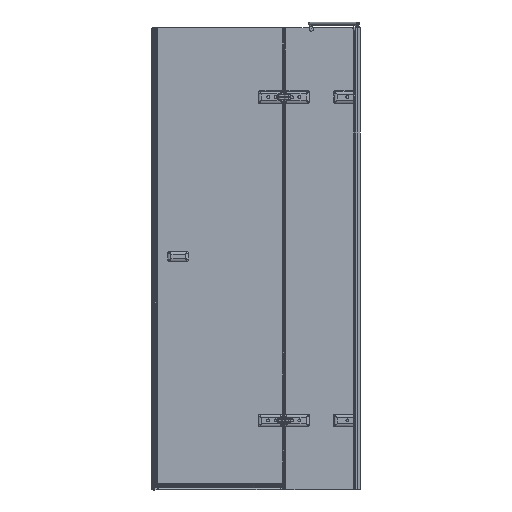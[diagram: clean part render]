
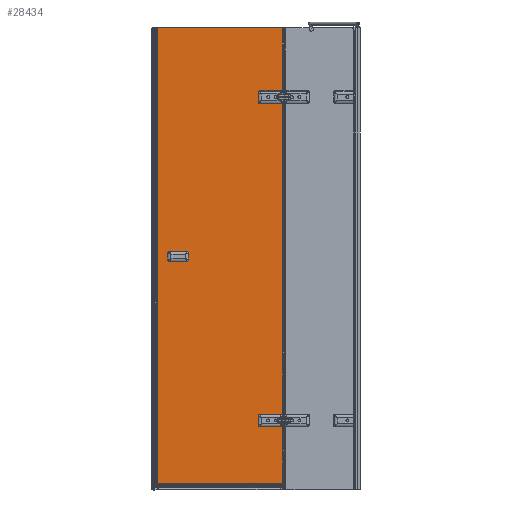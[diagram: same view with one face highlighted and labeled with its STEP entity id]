
A CAD part, left-side view. The second image highlights one B-rep face of the part: STEP entity #28434.
In plain terms, the highlighted planar face has unit normal (-1, 0, 0).
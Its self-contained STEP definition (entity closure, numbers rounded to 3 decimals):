
#303=FACE_BOUND($,#4773,.T.);
#304=FACE_BOUND($,#4774,.T.);
#305=FACE_BOUND($,#4775,.T.);
#994=CIRCLE($,#29510,6.5);
#1167=CIRCLE($,#29947,6.5);
#1464=CIRCLE($,#30770,10.);
#1465=CIRCLE($,#30771,10.);
#1466=CIRCLE($,#30772,10.);
#1467=CIRCLE($,#30773,10.);
#4773=EDGE_LOOP($,(#22742));
#4774=EDGE_LOOP($,(#22743));
#4775=EDGE_LOOP($,(#22744,#22745,#22746,#22747,#22748,#22749,#22750,#22751,
#22752,#22753,#22754,#22755,#22756,#22757,#22758,#22759));
#5721=LINE($,#40488,#8197);
#6231=LINE($,#56929,#8707);
#6672=LINE($,#59041,#9148);
#7447=LINE($,#64285,#9923);
#7448=LINE($,#64287,#9924);
#7449=LINE($,#64289,#9925);
#7450=LINE($,#64291,#9926);
#7451=LINE($,#64295,#9927);
#7452=LINE($,#64298,#9928);
#7453=LINE($,#64300,#9929);
#7454=LINE($,#64304,#9930);
#7455=LINE($,#64307,#9931);
#8197=VECTOR($,#31790,547.226);
#8707=VECTOR($,#33584,1362.);
#9148=VECTOR($,#34891,281.);
#9923=VECTOR($,#36958,1975.4);
#9924=VECTOR($,#36959,547.226);
#9925=VECTOR($,#36960,256.4);
#9926=VECTOR($,#36961,29.226);
#9927=VECTOR($,#36964,18.);
#9928=VECTOR($,#36967,29.226);
#9929=VECTOR($,#36968,29.226);
#9930=VECTOR($,#36971,18.);
#9931=VECTOR($,#36974,29.226);
#10747=VERTEX_POINT($,#40485);
#10748=VERTEX_POINT($,#40487);
#11289=VERTEX_POINT($,#56110);
#11458=VERTEX_POINT($,#56926);
#11459=VERTEX_POINT($,#56928);
#11732=VERTEX_POINT($,#58241);
#11893=VERTEX_POINT($,#59040);
#12681=VERTEX_POINT($,#64284);
#12682=VERTEX_POINT($,#64286);
#12683=VERTEX_POINT($,#64288);
#12684=VERTEX_POINT($,#64290);
#12685=VERTEX_POINT($,#64292);
#12686=VERTEX_POINT($,#64294);
#12687=VERTEX_POINT($,#64296);
#12688=VERTEX_POINT($,#64299);
#12689=VERTEX_POINT($,#64301);
#12690=VERTEX_POINT($,#64303);
#12691=VERTEX_POINT($,#64305);
#13311=EDGE_CURVE($,#10747,#10748,#5721,.T.);
#14057=EDGE_CURVE($,#11289,#11289,#994,.T.);
#14329=EDGE_CURVE($,#11459,#11458,#6231,.T.);
#14752=EDGE_CURVE($,#11732,#11732,#1167,.T.);
#15014=EDGE_CURVE($,#11893,#10748,#6672,.T.);
#16173=EDGE_CURVE($,#12681,#10747,#7447,.T.);
#16174=EDGE_CURVE($,#12682,#12681,#7448,.T.);
#16175=EDGE_CURVE($,#12682,#12683,#7449,.T.);
#16176=EDGE_CURVE($,#12683,#12684,#7450,.T.);
#16177=EDGE_CURVE($,#12685,#12684,#1464,.T.);
#16178=EDGE_CURVE($,#12685,#12686,#7451,.T.);
#16179=EDGE_CURVE($,#12687,#12686,#1465,.T.);
#16180=EDGE_CURVE($,#12687,#11459,#7452,.T.);
#16181=EDGE_CURVE($,#11458,#12688,#7453,.T.);
#16182=EDGE_CURVE($,#12689,#12688,#1466,.T.);
#16183=EDGE_CURVE($,#12689,#12690,#7454,.T.);
#16184=EDGE_CURVE($,#12691,#12690,#1467,.T.);
#16185=EDGE_CURVE($,#12691,#11893,#7455,.T.);
#22742=ORIENTED_EDGE($,*,*,#14057,.T.);
#22743=ORIENTED_EDGE($,*,*,#14752,.T.);
#22744=ORIENTED_EDGE($,*,*,#15014,.T.);
#22745=ORIENTED_EDGE($,*,*,#13311,.F.);
#22746=ORIENTED_EDGE($,*,*,#16173,.F.);
#22747=ORIENTED_EDGE($,*,*,#16174,.F.);
#22748=ORIENTED_EDGE($,*,*,#16175,.T.);
#22749=ORIENTED_EDGE($,*,*,#16176,.T.);
#22750=ORIENTED_EDGE($,*,*,#16177,.F.);
#22751=ORIENTED_EDGE($,*,*,#16178,.T.);
#22752=ORIENTED_EDGE($,*,*,#16179,.F.);
#22753=ORIENTED_EDGE($,*,*,#16180,.T.);
#22754=ORIENTED_EDGE($,*,*,#14329,.T.);
#22755=ORIENTED_EDGE($,*,*,#16181,.T.);
#22756=ORIENTED_EDGE($,*,*,#16182,.F.);
#22757=ORIENTED_EDGE($,*,*,#16183,.T.);
#22758=ORIENTED_EDGE($,*,*,#16184,.F.);
#22759=ORIENTED_EDGE($,*,*,#16185,.T.);
#25556=PLANE($,#30769);
#28434=ADVANCED_FACE($,(#303,#304,#305),#25556,.T.);
#29510=AXIS2_PLACEMENT_3D($,#56111,#33049,#33050);
#29947=AXIS2_PLACEMENT_3D($,#58242,#34370,#34371);
#30769=AXIS2_PLACEMENT_3D($,#64283,#36956,#36957);
#30770=AXIS2_PLACEMENT_3D($,#64293,#36962,#36963);
#30771=AXIS2_PLACEMENT_3D($,#64297,#36965,#36966);
#30772=AXIS2_PLACEMENT_3D($,#64302,#36969,#36970);
#30773=AXIS2_PLACEMENT_3D($,#64306,#36972,#36973);
#31790=DIRECTION($,(0.,-1.,0.));
#33049=DIRECTION('center_axis',(1.,0.,0.));
#33050=DIRECTION('ref_axis',(0.,-1.,0.));
#33584=DIRECTION($,(0.,0.,1.));
#34370=DIRECTION('center_axis',(1.,0.,0.));
#34371=DIRECTION('ref_axis',(0.,-1.,0.));
#34891=DIRECTION($,(0.,0.,1.));
#36956=DIRECTION('center_axis',(-1.,0.,0.));
#36957=DIRECTION('ref_axis',(0.,-1.,0.));
#36958=DIRECTION($,(0.,0.,1.));
#36959=DIRECTION($,(0.,1.,0.));
#36960=DIRECTION($,(0.,0.,1.));
#36961=DIRECTION($,(0.,1.,0.));
#36962=DIRECTION('center_axis',(-1.,0.,0.));
#36963=DIRECTION('ref_axis',(0.,0.707,-0.707));
#36964=DIRECTION($,(0.,0.,1.));
#36965=DIRECTION('center_axis',(-1.,0.,0.));
#36966=DIRECTION('ref_axis',(0.,0.707,0.707));
#36967=DIRECTION($,(0.,-1.,0.));
#36968=DIRECTION($,(0.,1.,0.));
#36969=DIRECTION('center_axis',(-1.,0.,0.));
#36970=DIRECTION('ref_axis',(0.,0.707,-0.707));
#36971=DIRECTION($,(0.,0.,1.));
#36972=DIRECTION('center_axis',(-1.,0.,0.));
#36973=DIRECTION('ref_axis',(0.,0.707,0.707));
#36974=DIRECTION($,(0.,-1.,0.));
#40485=CARTESIAN_POINT('',(1325.733,725.956,1485.944));
#40487=CARTESIAN_POINT('',(1325.733,178.73,1485.944));
#40488=CARTESIAN_POINT($,(1325.733,725.956,1485.944));
#56110=CARTESIAN_POINT('',(1325.733,247.456,-214.056));
#56111=CARTESIAN_POINT('Origin',(1325.733,240.956,-214.056));
#56926=CARTESIAN_POINT('',(1325.733,178.73,1166.944));
#56928=CARTESIAN_POINT('',(1325.733,178.73,-195.056));
#56929=CARTESIAN_POINT($,(1325.733,178.73,-204.056));
#58241=CARTESIAN_POINT('',(1325.733,247.456,1185.944));
#58242=CARTESIAN_POINT('Origin',(1325.733,240.956,1185.944));
#59040=CARTESIAN_POINT('',(1325.733,178.73,1204.944));
#59041=CARTESIAN_POINT($,(1325.733,178.73,1195.944));
#64283=CARTESIAN_POINT('Origin',(1325.733,725.956,-494.056));
#64284=CARTESIAN_POINT('',(1325.733,725.956,-489.456));
#64285=CARTESIAN_POINT($,(1325.733,725.956,-494.056));
#64286=CARTESIAN_POINT('',(1325.733,178.73,-489.456));
#64287=CARTESIAN_POINT($,(1325.733,175.956,-489.456));
#64288=CARTESIAN_POINT('',(1325.733,178.73,-233.056));
#64289=CARTESIAN_POINT($,(1325.733,178.73,-224.056));
#64290=CARTESIAN_POINT('',(1325.733,207.956,-233.056));
#64291=CARTESIAN_POINT($,(1325.733,471.956,-233.056));
#64292=CARTESIAN_POINT('',(1325.733,217.956,-223.056));
#64293=CARTESIAN_POINT('Origin',(1325.733,207.956,-223.056));
#64294=CARTESIAN_POINT('',(1325.733,217.956,-205.056));
#64295=CARTESIAN_POINT($,(1325.733,217.956,-344.556));
#64296=CARTESIAN_POINT('',(1325.733,207.956,-195.056));
#64297=CARTESIAN_POINT('Origin',(1325.733,207.956,-205.056));
#64298=CARTESIAN_POINT($,(1325.733,450.956,-195.056));
#64299=CARTESIAN_POINT('',(1325.733,207.956,1166.944));
#64300=CARTESIAN_POINT($,(1325.733,471.956,1166.944));
#64301=CARTESIAN_POINT('',(1325.733,217.956,1176.944));
#64302=CARTESIAN_POINT('Origin',(1325.733,207.956,1176.944));
#64303=CARTESIAN_POINT('',(1325.733,217.956,1194.944));
#64304=CARTESIAN_POINT($,(1325.733,217.956,355.444));
#64305=CARTESIAN_POINT('',(1325.733,207.956,1204.944));
#64306=CARTESIAN_POINT('Origin',(1325.733,207.956,1194.944));
#64307=CARTESIAN_POINT($,(1325.733,450.956,1204.944));
